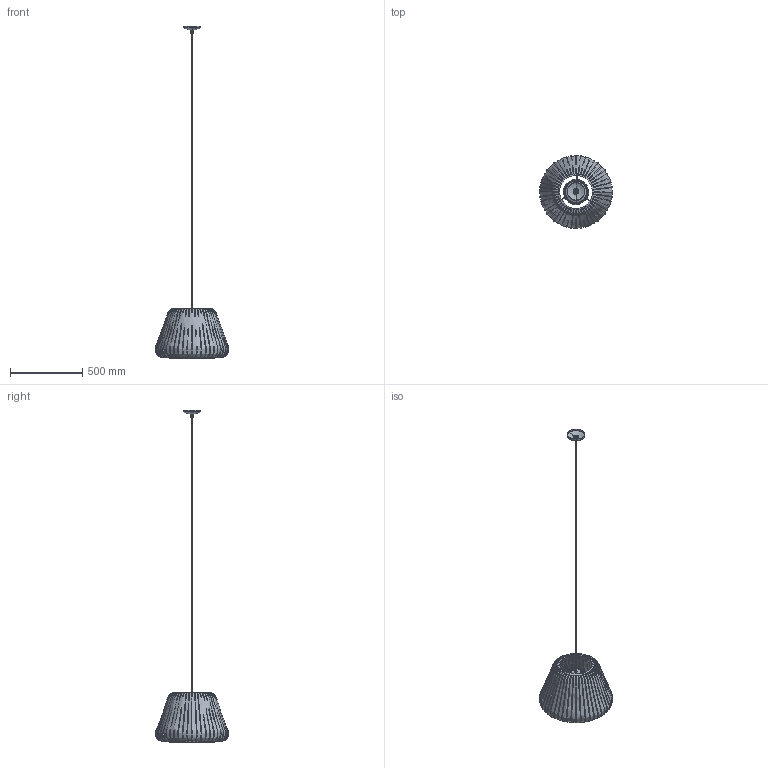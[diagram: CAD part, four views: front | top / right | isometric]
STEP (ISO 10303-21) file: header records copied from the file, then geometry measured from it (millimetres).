
FILE_DESCRIPTION(/* description */ (''),/* implementation_level */ '2;1');
FILE_NAME(/* name */ 'EC04744.050.0000',/* time_stamp */ '2024-10-22T10:26:13+02:00',/* author */ (''),/* organization */ (''),/* preprocessor_version */ 'ST-DEVELOPER v16.5',/* originating_system */ '',/* authorisation */ '');
FILE_SCHEMA (('AUTOMOTIVE_DESIGN'));
Products named in the file (1): Document
Bounding box: 506.92 x 506.92 x 2301.47 mm (x, y, z)
Volume: 821394.8 mm3; surface area: 1360685.2 mm2
Topology: 14 solids, 15 shells, 1705 faces, 4382 edges, 2618 vertices
Faces by surface type: bspline 1185, plane 520
Entity records: 85735 total; most frequent: CARTESIAN_POINT 60944, ORIENTED_EDGE 8700, EDGE_CURVE 4352, VERTEX_POINT 2618, B_SPLINE_CURVE_WITH_KNOTS 2172, EDGE_LOOP 1782, ADVANCED_FACE 1705, FACE_OUTER_BOUND 1705
